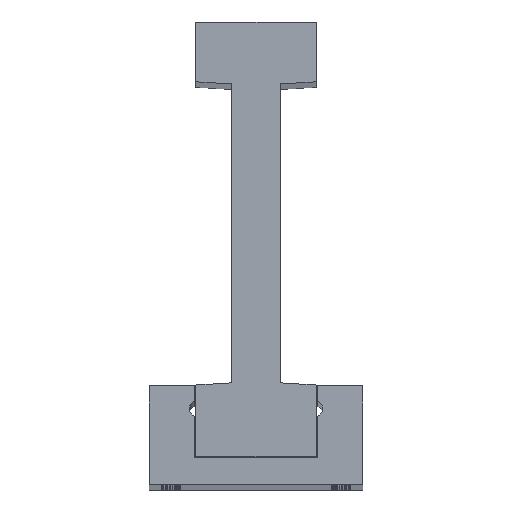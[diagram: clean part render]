
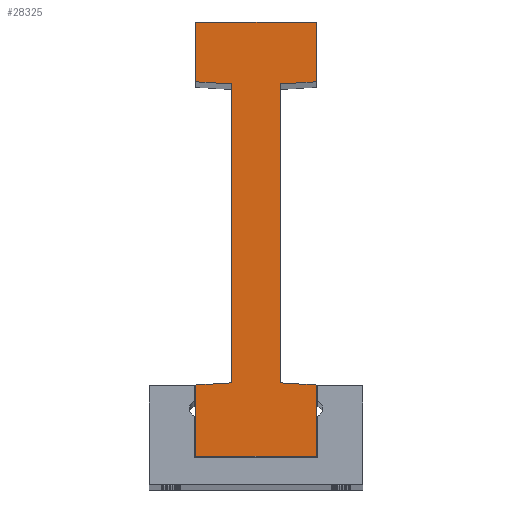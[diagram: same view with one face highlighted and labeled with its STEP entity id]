
A CAD part, top view. The second image highlights one B-rep face of the part: STEP entity #28325.
In plain terms, the highlighted planar face has unit normal (0, 0, 1).
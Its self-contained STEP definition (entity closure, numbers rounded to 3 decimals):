
#1056 = ORIENTED_EDGE ( 'NONE', *, *, #35100, .T. ) ;
#1403 = CARTESIAN_POINT ( 'NONE',  ( 5.6, 14.2, 721. ) ) ;
#1597 = LINE ( 'NONE', #18766, #1629 ) ;
#1629 = VECTOR ( 'NONE', #15390, 1000. ) ;
#2247 = CARTESIAN_POINT ( 'NONE',  ( 5.6, 82.7, 721. ) ) ;
#2661 = CARTESIAN_POINT ( 'NONE',  ( -13.8, 13.7, 721. ) ) ;
#3153 = CARTESIAN_POINT ( 'NONE',  ( 0., 0., 721. ) ) ;
#3446 = ORIENTED_EDGE ( 'NONE', *, *, #14158, .F. ) ;
#3483 = DIRECTION ( 'NONE',  ( -1., 0., 0. ) ) ;
#4246 = DIRECTION ( 'NONE',  ( 0., 1., 0. ) ) ;
#5081 = CARTESIAN_POINT ( 'NONE',  ( -13.8, 0., 721. ) ) ;
#5324 = CARTESIAN_POINT ( 'NONE',  ( 13.8, 99.5, 721. ) ) ;
#5798 = CARTESIAN_POINT ( 'NONE',  ( 13.8, 0., 721. ) ) ;
#6304 = EDGE_CURVE ( 'NONE', #34949, #21439, #26254, .T. ) ;
#6554 = CARTESIAN_POINT ( 'NONE',  ( -5.6, 14.2, 721. ) ) ;
#6957 = EDGE_CURVE ( 'NONE', #22370, #34773, #23593, .T. ) ;
#7139 = CARTESIAN_POINT ( 'NONE',  ( -5.6, 82.7, 721. ) ) ;
#7608 = EDGE_CURVE ( 'NONE', #34773, #10863, #20867, .T. ) ;
#8007 = ORIENTED_EDGE ( 'NONE', *, *, #20244, .T. ) ;
#8334 = DIRECTION ( 'NONE',  ( 0., 1., 0. ) ) ;
#8939 = CARTESIAN_POINT ( 'NONE',  ( -13.8, 0., 721. ) ) ;
#9612 = CARTESIAN_POINT ( 'NONE',  ( 13.8, 99.5, 721. ) ) ;
#10522 = LINE ( 'NONE', #1403, #32488 ) ;
#10863 = VERTEX_POINT ( 'NONE', #27294 ) ;
#11760 = VERTEX_POINT ( 'NONE', #5081 ) ;
#11957 = DIRECTION ( 'NONE',  ( 0., 1., 0. ) ) ;
#13709 = ORIENTED_EDGE ( 'NONE', *, *, #23615, .F. ) ;
#14158 = EDGE_CURVE ( 'NONE', #11760, #29524, #23989, .T. ) ;
#15390 = DIRECTION ( 'NONE',  ( 0.998, 0.061, 0. ) ) ;
#15462 = VECTOR ( 'NONE', #21366, 1000. ) ;
#15498 = LINE ( 'NONE', #37178, #15462 ) ;
#17661 = VERTEX_POINT ( 'NONE', #6554 ) ;
#18287 = ORIENTED_EDGE ( 'NONE', *, *, #36428, .F. ) ;
#18766 = CARTESIAN_POINT ( 'NONE',  ( 5.6, 82.7, 721. ) ) ;
#18902 = VERTEX_POINT ( 'NONE', #30529 ) ;
#19106 = CARTESIAN_POINT ( 'NONE',  ( 13.8, 83.2, 721. ) ) ;
#19440 = CARTESIAN_POINT ( 'NONE',  ( 0., 99.5, 721. ) ) ;
#20096 = CARTESIAN_POINT ( 'NONE',  ( 13.8, 0., 721. ) ) ;
#20244 = EDGE_CURVE ( 'NONE', #20434, #34949, #31022, .T. ) ;
#20434 = VERTEX_POINT ( 'NONE', #19106 ) ;
#20461 = EDGE_CURVE ( 'NONE', #11760, #22370, #29740, .T. ) ;
#20569 = VERTEX_POINT ( 'NONE', #23380 ) ;
#20796 = ORIENTED_EDGE ( 'NONE', *, *, #26969, .T. ) ;
#20867 = LINE ( 'NONE', #35689, #20910 ) ;
#20910 = VECTOR ( 'NONE', #35716, 1000. ) ;
#20956 = EDGE_CURVE ( 'NONE', #18902, #21439, #27736, .T. ) ;
#21366 = DIRECTION ( 'NONE',  ( 0., 1., 0. ) ) ;
#21439 = VERTEX_POINT ( 'NONE', #26927 ) ;
#22094 = ORIENTED_EDGE ( 'NONE', *, *, #6304, .T. ) ;
#22109 = CARTESIAN_POINT ( 'NONE',  ( -13.8, 13.7, 721. ) ) ;
#22370 = VERTEX_POINT ( 'NONE', #5798 ) ;
#22630 = DIRECTION ( 'NONE',  ( 0., 0., -1. ) ) ;
#22879 = CARTESIAN_POINT ( 'NONE',  ( 0., 99.5, 721. ) ) ;
#23380 = CARTESIAN_POINT ( 'NONE',  ( -5.6, 82.7, 721. ) ) ;
#23436 = VECTOR ( 'NONE', #11957, 1000. ) ;
#23593 = LINE ( 'NONE', #20096, #23436 ) ;
#23615 = EDGE_CURVE ( 'NONE', #17661, #20569, #15498, .T. ) ;
#23863 = VECTOR ( 'NONE', #8334, 1000. ) ;
#23989 = LINE ( 'NONE', #8939, #23863 ) ;
#24996 = DIRECTION ( 'NONE',  ( -1., 0., 0. ) ) ;
#25090 = FACE_OUTER_BOUND ( 'NONE', #34768, .T. ) ;
#25537 = ORIENTED_EDGE ( 'NONE', *, *, #30275, .F. ) ;
#25971 = VECTOR ( 'NONE', #24996, 1000. ) ;
#26254 = LINE ( 'NONE', #22879, #25971 ) ;
#26279 = DIRECTION ( 'NONE',  ( -0.998, 0.061, 0. ) ) ;
#26535 = VECTOR ( 'NONE', #37770, 1000. ) ;
#26576 = LINE ( 'NONE', #2661, #26535 ) ;
#26675 = VECTOR ( 'NONE', #26279, 1000. ) ;
#26827 = LINE ( 'NONE', #7139, #26675 ) ;
#26927 = CARTESIAN_POINT ( 'NONE',  ( -13.8, 99.5, 721. ) ) ;
#26969 = EDGE_CURVE ( 'NONE', #33447, #20434, #1597, .T. ) ;
#27045 = DIRECTION ( 'NONE',  ( 0., 1., 0. ) ) ;
#27294 = CARTESIAN_POINT ( 'NONE',  ( 5.6, 14.2, 721. ) ) ;
#27591 = VECTOR ( 'NONE', #4246, 1000. ) ;
#27736 = LINE ( 'NONE', #32832, #27591 ) ;
#28325 = ADVANCED_FACE ( 'NONE', ( #25090 ), #38437, .F. ) ;
#28459 = AXIS2_PLACEMENT_3D ( 'NONE', #19440, #22630, #3483 ) ;
#29524 = VERTEX_POINT ( 'NONE', #22109 ) ;
#29546 = VECTOR ( 'NONE', #41361, 1000. ) ;
#29670 = ORIENTED_EDGE ( 'NONE', *, *, #7608, .T. ) ;
#29740 = LINE ( 'NONE', #3153, #29546 ) ;
#30275 = EDGE_CURVE ( 'NONE', #20569, #18902, #26827, .T. ) ;
#30529 = CARTESIAN_POINT ( 'NONE',  ( -13.8, 83.2, 721. ) ) ;
#30725 = VECTOR ( 'NONE', #37135, 1000. ) ;
#31022 = LINE ( 'NONE', #5324, #30725 ) ;
#32488 = VECTOR ( 'NONE', #27045, 1000. ) ;
#32832 = CARTESIAN_POINT ( 'NONE',  ( -13.8, 99.5, 721. ) ) ;
#33447 = VERTEX_POINT ( 'NONE', #2247 ) ;
#33738 = CARTESIAN_POINT ( 'NONE',  ( 13.8, 13.7, 721. ) ) ;
#34768 = EDGE_LOOP ( 'NONE', ( #22094, #38378, #25537, #13709, #18287, #3446, #35776, #37323, #29670, #1056, #20796, #8007 ) ) ;
#34773 = VERTEX_POINT ( 'NONE', #33738 ) ;
#34949 = VERTEX_POINT ( 'NONE', #9612 ) ;
#35100 = EDGE_CURVE ( 'NONE', #10863, #33447, #10522, .T. ) ;
#35689 = CARTESIAN_POINT ( 'NONE',  ( 13.8, 13.7, 721. ) ) ;
#35716 = DIRECTION ( 'NONE',  ( -0.998, 0.061, 0. ) ) ;
#35776 = ORIENTED_EDGE ( 'NONE', *, *, #20461, .T. ) ;
#36428 = EDGE_CURVE ( 'NONE', #29524, #17661, #26576, .T. ) ;
#37135 = DIRECTION ( 'NONE',  ( 0., 1., 0. ) ) ;
#37178 = CARTESIAN_POINT ( 'NONE',  ( -5.6, 14.2, 721. ) ) ;
#37323 = ORIENTED_EDGE ( 'NONE', *, *, #6957, .T. ) ;
#37770 = DIRECTION ( 'NONE',  ( 0.998, 0.061, 0. ) ) ;
#38378 = ORIENTED_EDGE ( 'NONE', *, *, #20956, .F. ) ;
#38437 = PLANE ( 'NONE',  #28459 ) ;
#41361 = DIRECTION ( 'NONE',  ( 1., 0., 0. ) ) ;
